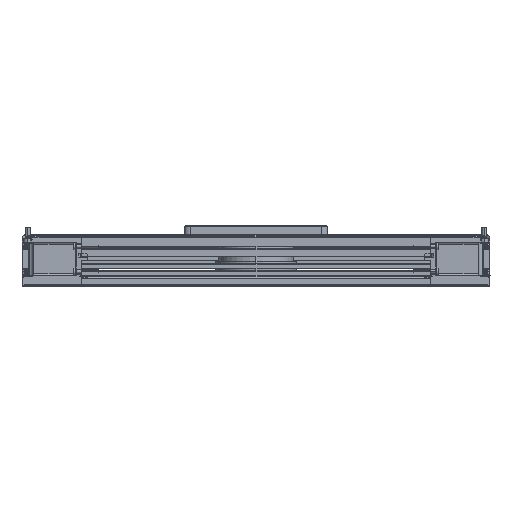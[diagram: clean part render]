
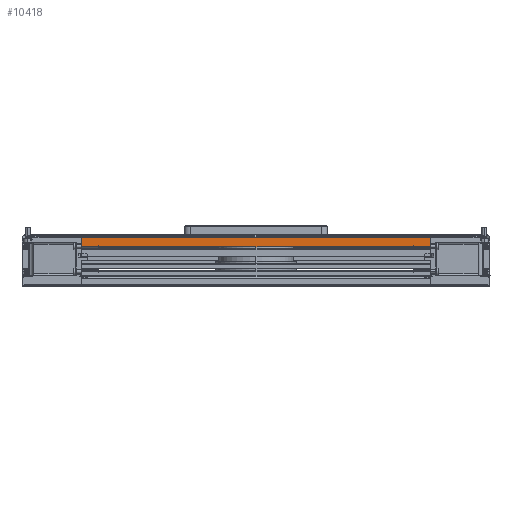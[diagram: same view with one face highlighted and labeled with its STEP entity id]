
A CAD part, left-side view. The second image highlights one B-rep face of the part: STEP entity #10418.
In plain terms, the highlighted planar face has unit normal (-1, 0, 0).
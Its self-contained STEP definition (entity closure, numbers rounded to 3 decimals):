
#973 = DIRECTION ( 'NONE',  ( 0., 0., -1. ) ) ;
#1360 = EDGE_LOOP ( 'NONE', ( #31831, #29524, #25731, #46262 ) ) ;
#2626 = DIRECTION ( 'NONE',  ( 0., 0., -1. ) ) ;
#3317 = PLANE ( 'NONE',  #78175 ) ;
#8852 = VECTOR ( 'NONE', #22402, 1000. ) ;
#9445 = CARTESIAN_POINT ( 'NONE',  ( -304., 1500., 34.55 ) ) ;
#9877 = EDGE_CURVE ( 'NONE', #48940, #29724, #31365, .T. ) ;
#10417 = EDGE_CURVE ( 'NONE', #64715, #13406, #43406, .T. ) ;
#10418 = ADVANCED_FACE ( 'NONE', ( #58320 ), #3317, .T. ) ;
#10542 = EDGE_CURVE ( 'NONE', #48940, #13406, #76057, .T. ) ;
#10656 = EDGE_CURVE ( 'NONE', #29724, #64715, #66163, .T. ) ;
#13406 = VERTEX_POINT ( 'NONE', #68032 ) ;
#22402 = DIRECTION ( 'NONE',  ( 0., -1., 0. ) ) ;
#25731 = ORIENTED_EDGE ( 'NONE', *, *, #9877, .T. ) ;
#29524 = ORIENTED_EDGE ( 'NONE', *, *, #10542, .F. ) ;
#29724 = VERTEX_POINT ( 'NONE', #38377 ) ;
#31365 = LINE ( 'NONE', #39927, #65308 ) ;
#31831 = ORIENTED_EDGE ( 'NONE', *, *, #10417, .T. ) ;
#34313 = VECTOR ( 'NONE', #2626, 1000. ) ;
#35832 = CARTESIAN_POINT ( 'NONE',  ( -304., 1500., 43. ) ) ;
#38377 = CARTESIAN_POINT ( 'NONE',  ( -304., 152., 43. ) ) ;
#39927 = CARTESIAN_POINT ( 'NONE',  ( -304., 1500., 43. ) ) ;
#42335 = DIRECTION ( 'NONE',  ( 0., 0., -1. ) ) ;
#43406 = LINE ( 'NONE', #9445, #8852 ) ;
#46262 = ORIENTED_EDGE ( 'NONE', *, *, #10656, .T. ) ;
#48940 = VERTEX_POINT ( 'NONE', #60208 ) ;
#58320 = FACE_OUTER_BOUND ( 'NONE', #1360, .T. ) ;
#60208 = CARTESIAN_POINT ( 'NONE',  ( -304., -152., 43. ) ) ;
#60300 = CARTESIAN_POINT ( 'NONE',  ( -304., 152., 43. ) ) ;
#64715 = VERTEX_POINT ( 'NONE', #67529 ) ;
#65308 = VECTOR ( 'NONE', #77896, 1000. ) ;
#66163 = LINE ( 'NONE', #60300, #34313 ) ;
#67529 = CARTESIAN_POINT ( 'NONE',  ( -304., 152., 34.55 ) ) ;
#68032 = CARTESIAN_POINT ( 'NONE',  ( -304., -152., 34.55 ) ) ;
#69685 = CARTESIAN_POINT ( 'NONE',  ( -304., -152., 43. ) ) ;
#74023 = VECTOR ( 'NONE', #973, 1000. ) ;
#76057 = LINE ( 'NONE', #69685, #74023 ) ;
#77896 = DIRECTION ( 'NONE',  ( 0., 1., 0. ) ) ;
#78175 = AXIS2_PLACEMENT_3D ( 'NONE', #35832, #80251, #42335 ) ;
#80251 = DIRECTION ( 'NONE',  ( -1., 0., 0. ) ) ;
